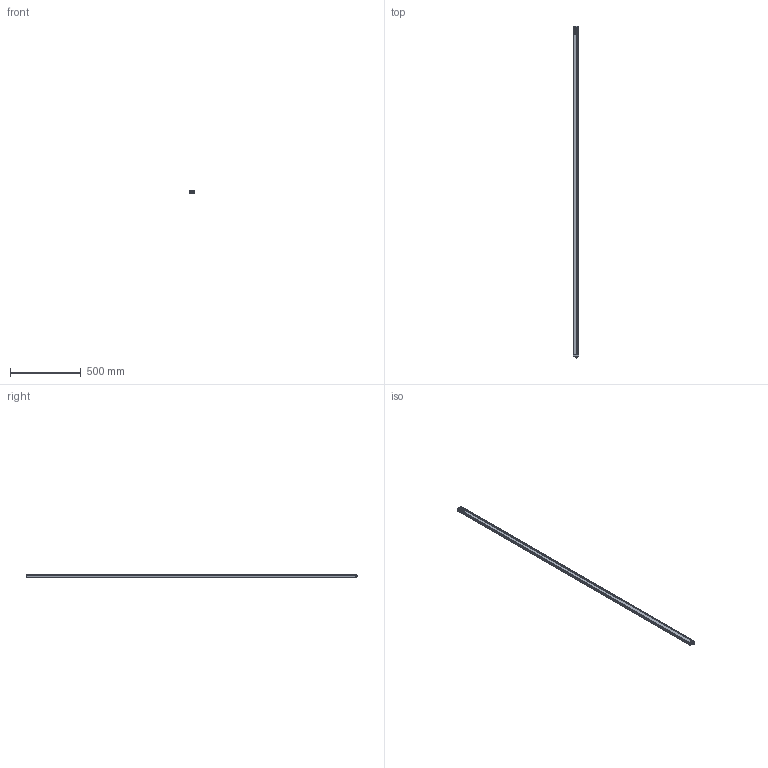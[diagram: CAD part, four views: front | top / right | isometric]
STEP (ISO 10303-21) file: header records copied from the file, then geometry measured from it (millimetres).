
FILE_DESCRIPTION(/* description */ (''),/* implementation_level */ '2;1');
FILE_NAME(/* name */ 'C:\Users\andre\SynologyDrive\Optoscan\Libreria Componenti\00 - Barriere\Barriera sorgente\Argo_2320_RX.stp',/* time_stamp */ '2021-04-22T12:28:27+02:00',/* author */ ('andre'),/* organization */ (''),/* preprocessor_version */ 'ST-DEVELOPER v18',/* originating_system */ 'Autodesk Inventor 2020',/* authorisation */ '');
FILE_SCHEMA (('AUTOMOTIVE_DESIGN { 1 0 10303 214 3 1 1 }'));
Length unit declared in the file: millimetre
Products named in the file (1): Argo_2320_RX
Bounding box: 40.5 x 2353.3 x 20.75 mm (x, y, z)
Volume: 462743.6 mm3; surface area: 614887.1 mm2
Topology: 1 solids, 1 shells, 692 faces, 1898 edges, 1217 vertices
Faces by surface type: plane 319, cylinder 195, bspline 94, torus 70, cone 8, sphere 6
Full cylindrical faces by diameter (mm): 1 x4, 2.459 x4, 2.5 x4, 3 x4, 3.5 x4, 5.5 x4, 8 x1, 10.5 x2, 11.75 x9, 15.7 x1, 17.5 x1
Entity records: 28165 total; most frequent: CARTESIAN_POINT 10195, ORIENTED_EDGE 3778, DIRECTION 3387, EDGE_CURVE 1889, VERTEX_POINT 1217, AXIS2_PLACEMENT_3D 1183, LINE 1021, VECTOR 1021
